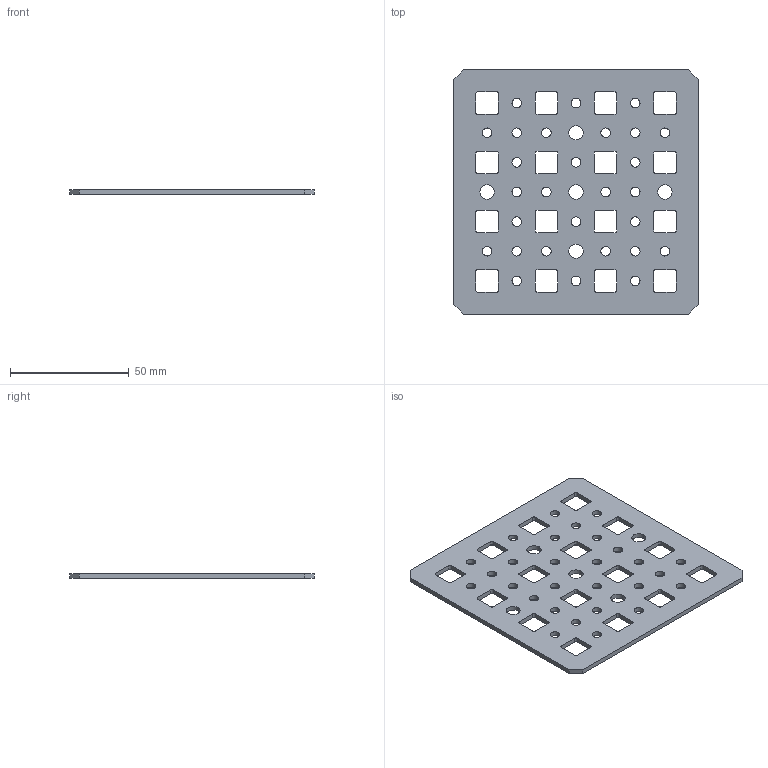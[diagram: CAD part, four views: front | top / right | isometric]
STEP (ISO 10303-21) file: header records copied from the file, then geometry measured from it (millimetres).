
FILE_DESCRIPTION (( 'STEP AP203' ), '1' );
FILE_NAME ('MP 10.10 P Ïàíåëü ìîíòàæíàÿ ïëîñêàÿ.STEP', '2012-11-26T12:29:33', ( 'system' ), ( '' ), 'SwSTEP 2.0', 'SolidWorks 2012', '' );
FILE_SCHEMA (( 'CONFIG_CONTROL_DESIGN' ));
Length unit declared in the file: millimetre
Products named in the file (1): MP 10.10 P Ïàíåëü ìîíòàæíàÿ ïëîñêàÿ
Bounding box: 103 x 103 x 2 mm (x, y, z)
Volume: 17297.1 mm3; surface area: 20166.6 mm2
Topology: 1 solids, 1 shells, 204 faces, 606 edges, 404 vertices
Faces by surface type: cylinder 130, plane 74
Entity records: 7223 total; most frequent: DIRECTION 1276, CARTESIAN_POINT 1215, ORIENTED_EDGE 1212, EDGE_CURVE 606, AXIS2_PLACEMENT_3D 465, VERTEX_POINT 404, VECTOR 346, LINE 346
